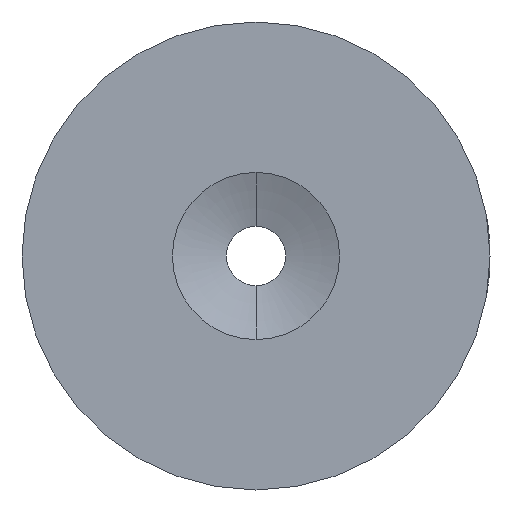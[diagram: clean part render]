
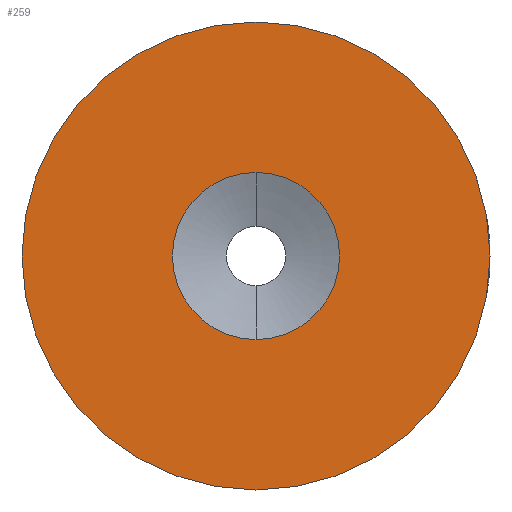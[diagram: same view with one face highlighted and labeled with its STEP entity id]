
A CAD part, left-side view. The second image highlights one B-rep face of the part: STEP entity #259.
In plain terms, the highlighted planar face has unit normal (-1, 0, 0).
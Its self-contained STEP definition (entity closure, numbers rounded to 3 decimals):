
#2 = ORIENTED_EDGE ( 'NONE', *, *, #373, .T. ) ;
#19 = FACE_OUTER_BOUND ( 'NONE', #76, .T. ) ;
#39 = CARTESIAN_POINT ( 'NONE',  ( 0., 1.75, 0. ) ) ;
#52 = AXIS2_PLACEMENT_3D ( 'NONE', #161, #244, #260 ) ;
#67 = EDGE_CURVE ( 'NONE', #467, #468, #80, .T. ) ;
#72 = CARTESIAN_POINT ( 'NONE',  ( 0., 0., 14. ) ) ;
#76 = EDGE_LOOP ( 'NONE', ( #518, #2 ) ) ;
#78 = DIRECTION ( 'NONE',  ( 1., 0., 0. ) ) ;
#80 = CIRCLE ( 'NONE', #271, 14. ) ;
#84 = FACE_BOUND ( 'NONE', #452, .T. ) ;
#87 = CIRCLE ( 'NONE', #479, 5. ) ;
#88 = DIRECTION ( 'NONE',  ( 0., 0., 1. ) ) ;
#118 = CARTESIAN_POINT ( 'NONE',  ( 0., 0., 0. ) ) ;
#125 = ORIENTED_EDGE ( 'NONE', *, *, #439, .F. ) ;
#131 = ORIENTED_EDGE ( 'NONE', *, *, #545, .F. ) ;
#136 = CARTESIAN_POINT ( 'NONE',  ( 0., 0., -5. ) ) ;
#145 = CIRCLE ( 'NONE', #52, 14. ) ;
#151 = AXIS2_PLACEMENT_3D ( 'NONE', #39, #78, #447 ) ;
#161 = CARTESIAN_POINT ( 'NONE',  ( 0., 0., 0. ) ) ;
#165 = DIRECTION ( 'NONE',  ( 0., 0., 1. ) ) ;
#183 = DIRECTION ( 'NONE',  ( -1., 0., 0. ) ) ;
#195 = VERTEX_POINT ( 'NONE', #540 ) ;
#229 = PLANE ( 'NONE',  #151 ) ;
#240 = CARTESIAN_POINT ( 'NONE',  ( 0., 0., 0. ) ) ;
#243 = DIRECTION ( 'NONE',  ( -1., 0., 0. ) ) ;
#244 = DIRECTION ( 'NONE',  ( -1., 0., 0. ) ) ;
#253 = VERTEX_POINT ( 'NONE', #136 ) ;
#259 = ADVANCED_FACE ( 'NONE', ( #84, #19 ), #229, .F. ) ;
#260 = DIRECTION ( 'NONE',  ( 0., 0., 1. ) ) ;
#265 = DIRECTION ( 'NONE',  ( 0., 0., 1. ) ) ;
#271 = AXIS2_PLACEMENT_3D ( 'NONE', #362, #243, #165 ) ;
#294 = DIRECTION ( 'NONE',  ( -1., 0., 0. ) ) ;
#358 = CARTESIAN_POINT ( 'NONE',  ( 0., 0., -14. ) ) ;
#362 = CARTESIAN_POINT ( 'NONE',  ( 0., 0., 0. ) ) ;
#373 = EDGE_CURVE ( 'NONE', #468, #467, #145, .T. ) ;
#378 = CIRCLE ( 'NONE', #429, 5. ) ;
#429 = AXIS2_PLACEMENT_3D ( 'NONE', #240, #294, #88 ) ;
#439 = EDGE_CURVE ( 'NONE', #195, #253, #87, .T. ) ;
#447 = DIRECTION ( 'NONE',  ( 0., 0., -1. ) ) ;
#452 = EDGE_LOOP ( 'NONE', ( #125, #131 ) ) ;
#467 = VERTEX_POINT ( 'NONE', #72 ) ;
#468 = VERTEX_POINT ( 'NONE', #358 ) ;
#479 = AXIS2_PLACEMENT_3D ( 'NONE', #118, #183, #265 ) ;
#518 = ORIENTED_EDGE ( 'NONE', *, *, #67, .T. ) ;
#540 = CARTESIAN_POINT ( 'NONE',  ( 0., 0., 5. ) ) ;
#545 = EDGE_CURVE ( 'NONE', #253, #195, #378, .T. ) ;
